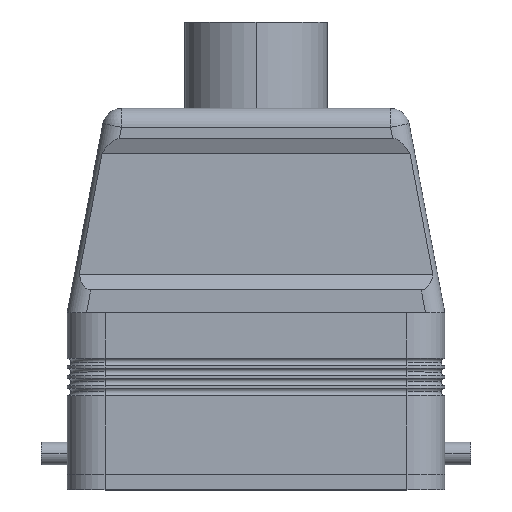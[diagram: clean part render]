
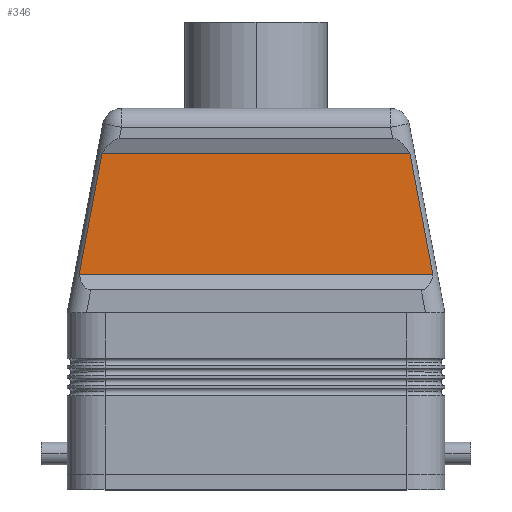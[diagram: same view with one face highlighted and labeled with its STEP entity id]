
A CAD part, top view. The second image highlights one B-rep face of the part: STEP entity #346.
In plain terms, the highlighted planar face has unit normal (0, 0, 1).
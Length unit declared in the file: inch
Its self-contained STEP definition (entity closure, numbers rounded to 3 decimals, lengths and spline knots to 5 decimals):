
#346 = ADVANCED_FACE ( 'NONE', ( #1831 ), #1847, .F. ) ;
#347 = EDGE_LOOP ( 'NONE', ( #432, #453, #456, #459 ) ) ;
#432 = ORIENTED_EDGE ( 'NONE', *, *, #433, .T. ) ;
#433 = EDGE_CURVE ( 'NONE', #451, #452, #2001, .T. ) ;
#451 = VERTEX_POINT ( 'NONE', #2064 ) ;
#452 = VERTEX_POINT ( 'NONE', #2062 ) ;
#453 = ORIENTED_EDGE ( 'NONE', *, *, #454, .F. ) ;
#454 = EDGE_CURVE ( 'NONE', #455, #452, #2114, .T. ) ;
#455 = VERTEX_POINT ( 'NONE', #2118 ) ;
#456 = ORIENTED_EDGE ( 'NONE', *, *, #457, .T. ) ;
#457 = EDGE_CURVE ( 'NONE', #455, #458, #2117, .T. ) ;
#458 = VERTEX_POINT ( 'NONE', #2095 ) ;
#459 = ORIENTED_EDGE ( 'NONE', *, *, #460, .T. ) ;
#460 = EDGE_CURVE ( 'NONE', #458, #451, #2115, .T. ) ;
#1831 = FACE_OUTER_BOUND ( 'NONE', #347, .T. ) ;
#1843 = DIRECTION ( 'NONE',  ( -1., 0., 0. ) ) ;
#1844 = DIRECTION ( 'NONE',  ( 0., 0., -1. ) ) ;
#1845 = CARTESIAN_POINT ( 'NONE',  ( 2., 2.12, 0.67 ) ) ;
#1846 = AXIS2_PLACEMENT_3D ( 'NONE', #1845, #1844, #1843 ) ;
#1847 = PLANE ( 'NONE',  #1846 ) ;
#2000 = CARTESIAN_POINT ( 'NONE',  ( -1.31476, 0.5464, 0.67 ) ) ;
#2001 = LINE ( 'NONE', #2000, #2031 ) ;
#2030 = DIRECTION ( 'NONE',  ( -0.186, -0.983, 0. ) ) ;
#2031 = VECTOR ( 'NONE', #2030, 39.37008 ) ;
#2057 = DIRECTION ( 'NONE',  ( -1., 0., 0. ) ) ;
#2058 = VECTOR ( 'NONE', #2057, 39.37008 ) ;
#2059 = CARTESIAN_POINT ( 'NONE',  ( 2., 2.12, 0.67 ) ) ;
#2062 = CARTESIAN_POINT ( 'NONE',  ( -1.16864, 1.32, 0.67 ) ) ;
#2064 = CARTESIAN_POINT ( 'NONE',  ( -1.01753, 2.12, 0.67 ) ) ;
#2095 = CARTESIAN_POINT ( 'NONE',  ( 1.01753, 2.12, 0.67 ) ) ;
#2097 = DIRECTION ( 'NONE',  ( -0.186, 0.983, 0. ) ) ;
#2098 = VECTOR ( 'NONE', #2097, 39.37008 ) ;
#2101 = CARTESIAN_POINT ( 'NONE',  ( 1.31476, 0.5464, 0.67 ) ) ;
#2113 = CARTESIAN_POINT ( 'NONE',  ( 2., 1.32, 0.67 ) ) ;
#2114 = LINE ( 'NONE', #2113, #2120 ) ;
#2115 = LINE ( 'NONE', #2059, #2058 ) ;
#2117 = LINE ( 'NONE', #2101, #2098 ) ;
#2118 = CARTESIAN_POINT ( 'NONE',  ( 1.16864, 1.32, 0.67 ) ) ;
#2119 = DIRECTION ( 'NONE',  ( -1., 0., 0. ) ) ;
#2120 = VECTOR ( 'NONE', #2119, 39.37008 ) ;
